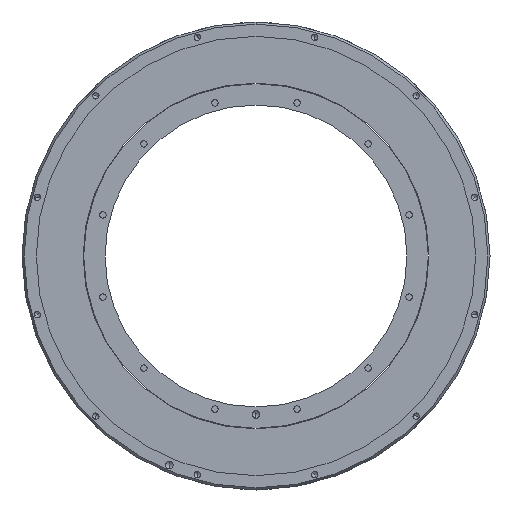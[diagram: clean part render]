
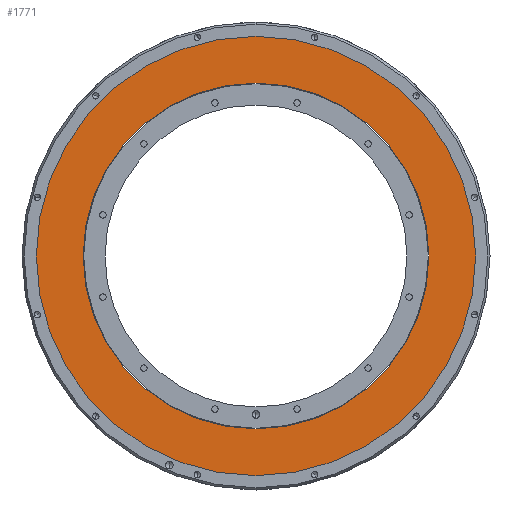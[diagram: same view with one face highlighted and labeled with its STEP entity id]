
A CAD part, front view. The second image highlights one B-rep face of the part: STEP entity #1771.
In plain terms, the highlighted planar face has unit normal (0, -1, 0).
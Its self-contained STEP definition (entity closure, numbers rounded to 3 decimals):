
#31 = CIRCLE ( 'NONE', #2583, 114.5 ) ;
#87 = DIRECTION ( 'NONE',  ( 0., -1., 0. ) ) ;
#227 = EDGE_CURVE ( 'NONE', #7059, #5757, #31, .T. ) ;
#1045 = DIRECTION ( 'NONE',  ( 0., -1., 0. ) ) ;
#1141 = ORIENTED_EDGE ( 'NONE', *, *, #1514, .F. ) ;
#1326 = CARTESIAN_POINT ( 'NONE',  ( 0., 1., 0. ) ) ;
#1506 = ORIENTED_EDGE ( 'NONE', *, *, #227, .F. ) ;
#1514 = EDGE_CURVE ( 'NONE', #5757, #7059, #6620, .T. ) ;
#1552 = DIRECTION ( 'NONE',  ( 0., -1., 0. ) ) ;
#1771 = ADVANCED_FACE ( 'NONE', ( #2067, #3423 ), #2789, .T. ) ;
#2031 = ORIENTED_EDGE ( 'NONE', *, *, #2678, .T. ) ;
#2067 = FACE_OUTER_BOUND ( 'NONE', #7144, .T. ) ;
#2074 = CARTESIAN_POINT ( 'NONE',  ( 0., 1., -145.5 ) ) ;
#2231 = CIRCLE ( 'NONE', #6798, 145.5 ) ;
#2571 = CARTESIAN_POINT ( 'NONE',  ( 0., 1., 145.5 ) ) ;
#2583 = AXIS2_PLACEMENT_3D ( 'NONE', #6225, #7351, #5581 ) ;
#2678 = EDGE_CURVE ( 'NONE', #5620, #7154, #7079, .T. ) ;
#2735 = AXIS2_PLACEMENT_3D ( 'NONE', #1326, #87, #5832 ) ;
#2789 = PLANE ( 'NONE',  #3400 ) ;
#3400 = AXIS2_PLACEMENT_3D ( 'NONE', #4495, #1045, #5037 ) ;
#3423 = FACE_BOUND ( 'NONE', #7033, .T. ) ;
#3840 = CARTESIAN_POINT ( 'NONE',  ( 0., 1., 0. ) ) ;
#4441 = CARTESIAN_POINT ( 'NONE',  ( 0., 1., -114.5 ) ) ;
#4495 = CARTESIAN_POINT ( 'NONE',  ( 114.5, 1., 0. ) ) ;
#5037 = DIRECTION ( 'NONE',  ( 0., 0., -1. ) ) ;
#5288 = DIRECTION ( 'NONE',  ( 0., -1., 0. ) ) ;
#5581 = DIRECTION ( 'NONE',  ( 0., 0., -1. ) ) ;
#5595 = DIRECTION ( 'NONE',  ( 0., 0., -1. ) ) ;
#5620 = VERTEX_POINT ( 'NONE', #2571 ) ;
#5757 = VERTEX_POINT ( 'NONE', #4441 ) ;
#5832 = DIRECTION ( 'NONE',  ( 0., 0., -1. ) ) ;
#5955 = ORIENTED_EDGE ( 'NONE', *, *, #6910, .T. ) ;
#6167 = AXIS2_PLACEMENT_3D ( 'NONE', #3840, #1552, #5595 ) ;
#6225 = CARTESIAN_POINT ( 'NONE',  ( 0., 1., 0. ) ) ;
#6620 = CIRCLE ( 'NONE', #2735, 114.5 ) ;
#6621 = CARTESIAN_POINT ( 'NONE',  ( 0., 1., 114.5 ) ) ;
#6798 = AXIS2_PLACEMENT_3D ( 'NONE', #7015, #5288, #7092 ) ;
#6910 = EDGE_CURVE ( 'NONE', #7154, #5620, #2231, .T. ) ;
#7015 = CARTESIAN_POINT ( 'NONE',  ( 0., 1., 0. ) ) ;
#7033 = EDGE_LOOP ( 'NONE', ( #1141, #1506 ) ) ;
#7059 = VERTEX_POINT ( 'NONE', #6621 ) ;
#7079 = CIRCLE ( 'NONE', #6167, 145.5 ) ;
#7092 = DIRECTION ( 'NONE',  ( 0., 0., -1. ) ) ;
#7144 = EDGE_LOOP ( 'NONE', ( #5955, #2031 ) ) ;
#7154 = VERTEX_POINT ( 'NONE', #2074 ) ;
#7351 = DIRECTION ( 'NONE',  ( 0., -1., 0. ) ) ;
